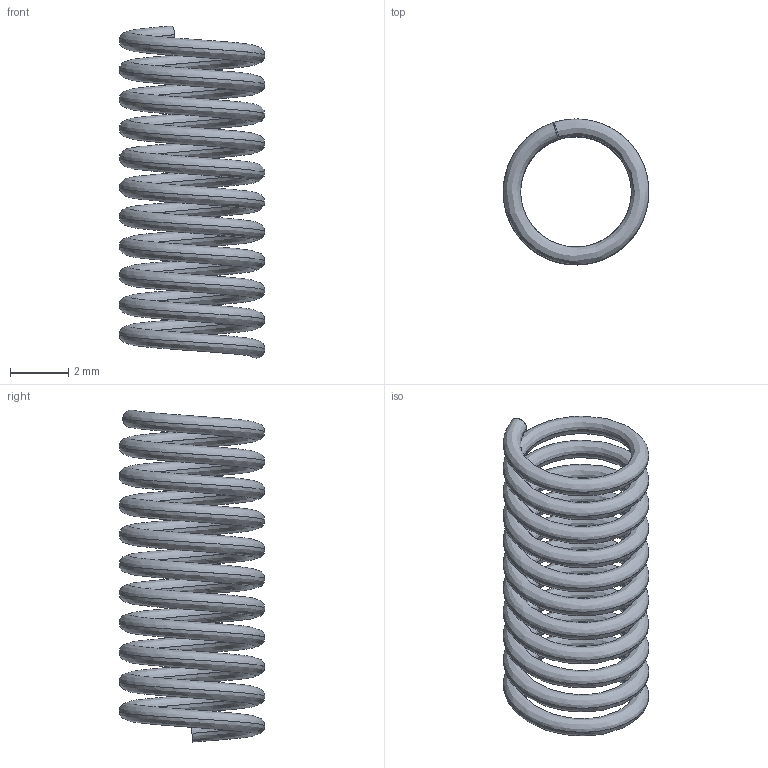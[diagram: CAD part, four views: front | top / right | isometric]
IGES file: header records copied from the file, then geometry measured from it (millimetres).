
Start section: SolidWorks IGES FILE using analytic representation for surfaces
Global section: file name: C:\Documents and Settings\lecoutey\Bureau\GP 2029\2029.120.00.IGS; native system: SolidWorks 2004 by SolidWorks Corporation; preprocessor: Version 5.3; author: lecoutey; date: 050329.160427; units: millimetre
Bounding box: 5 x 5 x 11.4 mm (x, y, z)
Surface area: 280.1 mm2 (no closed solid volume)
Topology: 0 solids, 0 shells, 4 faces, 40 edges, 40 vertices
Faces by surface type: bspline 4
